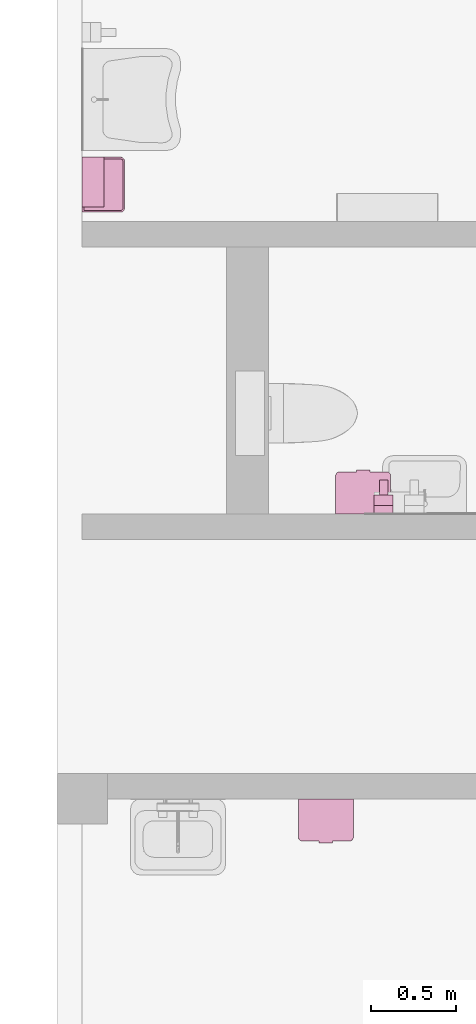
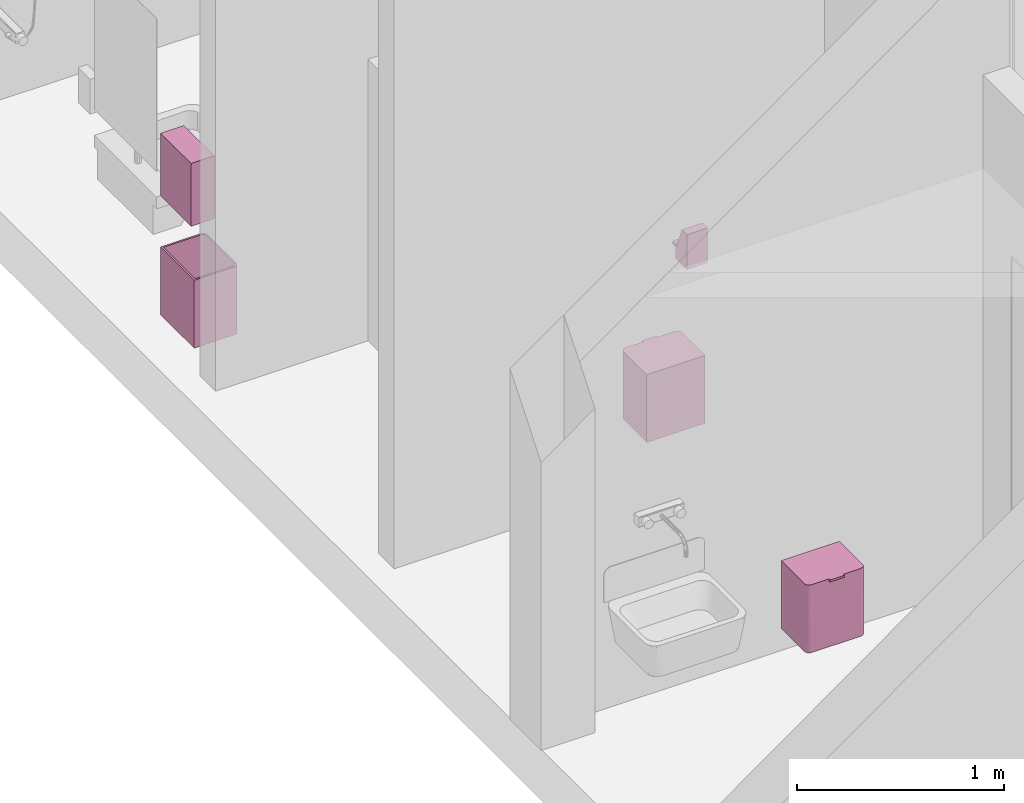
# One storey, part 53 of 58: 5 furnishings.
"""IFC2X3 building model written with IfcOpenShell, lengths in millimetres."""

from ifc_helpers import new_model, entity, si_unit, converted_unit, derived_unit, direction, frame, origin, origin_2d_with_axis, place, context, subcontext, project, spatial, polyline, rectangle, outline, extrude, faceted_brep, source, transform, mapped, material, type_object, type_shapes, element, save


model = new_model("IFC2X3")

# Units and contexts
model_context = context("Model", 3, precision=0.01, world=origin(), true_north=direction((0.7716245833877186, 0.6360782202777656)))
body_context = subcontext(model_context, "Body", "Model", "MODEL_VIEW")
ifc_project = project(units=[si_unit("LENGTHUNIT", "METRE", prefix="MILLI"), si_unit("AREAUNIT", "SQUARE_METRE"), converted_unit("PLANEANGLEUNIT", "DEGREE", entity("IfcPlaneAngleMeasure", 0.017453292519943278), si_unit("PLANEANGLEUNIT", "RADIAN"), dimensions=[0, 0, 0, 0, 0, 0, 0]), derived_unit("THERMALTRANSMITTANCEUNIT", [(si_unit("MASSUNIT", "GRAM", prefix="KILO"), 1), (si_unit("THERMODYNAMICTEMPERATUREUNIT", "KELVIN"), -1), (si_unit("TIMEUNIT", "SECOND"), -3)])], contexts=[model_context])

# Site, building, storey, space
site_placement = place(None, origin())
site = spatial("IfcSite", under=ifc_project, at=site_placement, Name="Default", CompositionType="ELEMENT")
building_placement = place(site_placement, origin())
building = spatial("IfcBuilding", under=site, at=building_placement, CompositionType="ELEMENT")
storey_placement = place(building_placement, frame((0.0, 0.0, 31140.0)))
storey = spatial("IfcBuildingStorey", under=building, at=storey_placement, Name="PLAN U1", CompositionType="ELEMENT", Elevation=31140.000000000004)
space_1_placement = place(storey_placement, origin())
space_1 = spatial("IfcSpace", under=storey, at=space_1_placement, Name="B5-302", CompositionType="ELEMENT", InteriorOrExteriorSpace="INTERNAL")

# Furnishing
ifc_material = material(Name="<Unnamed>")
furniture_type_1 = type_object("IfcFurnitureType", Name="Avfallsstativ, vegghengt lukket:Avfallsbøtte, vegghengt lukket", AssemblyPlace="NOTDEFINED", material=ifc_material)
shared_shape_1 = source(origin(), body_context, "Body", "Brep", [
    faceted_brep([(300.0, -250.0, -30610.0), (202.50000000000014, -250.0, -30610.0), (202.50000000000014, -250.0, -30622.469562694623), (300.0, -250.0, -30622.469562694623), (122.50000000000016, -250.0, -30610.0), (25.0, -250.0, -30610.0), (25.0, -250.0, -30622.469562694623), (122.50000000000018, -250.0, -30622.469562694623), (312.5000000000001, -246.65063509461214, -30610.0), (317.6776695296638, -242.67766952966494, -30610.0), (321.65063509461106, -237.50000000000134, -30610.0), (324.14814565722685, -231.47047612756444, -30610.0), (325.0, -225.0, -30610.0), (325.0, 0.0, -30610.0), (0.0, 0.0, -30610.0), (0.0, -225.0, -30610.0), (0.8518543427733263, -231.4704761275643, -30610.0), (3.3493649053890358, -237.50000000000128, -30610.0), (7.322330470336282, -242.67766952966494, -30610.0), (12.499999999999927, -246.65063509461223, -30610.0), (18.529523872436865, -249.14814565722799, -30610.0), (122.50000000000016, -260.0, -30610.0), (202.50000000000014, -260.0, -30610.0), (306.47047612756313, -249.14814565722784, -30610.0), (12.499999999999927, -246.65063509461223, -30622.469562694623), (7.322330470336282, -242.67766952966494, -30622.469562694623), (3.3493649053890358, -237.50000000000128, -30622.469562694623), (0.8518543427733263, -231.4704761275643, -30622.469562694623), (0.0, -225.0, -30622.469562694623), (0.0, 0.0, -30622.469562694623), (325.0, 0.0, -30622.469562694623), (325.0, -225.0, -30622.469562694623), (324.14814565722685, -231.47047612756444, -30622.469562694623), (321.65063509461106, -237.50000000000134, -30622.469562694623), (317.6776695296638, -242.67766952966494, -30622.469562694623), (312.5000000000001, -246.65063509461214, -30622.469562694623), (306.47047612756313, -249.14814565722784, -30622.469562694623), (202.5000000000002, -260.0, -30622.469562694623), (122.50000000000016, -260.0, -30622.469562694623), (18.529523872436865, -249.14814565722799, -30622.469562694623)], [[[0, 1, 2, 3]], [[4, 5, 6, 7]], [[8, 9, 10, 11, 12, 13, 14, 15, 16, 17, 18, 19, 20, 5, 4, 21, 22, 1, 0, 23]], [[24, 25, 26, 27, 28, 29, 30, 31, 32, 33, 34, 35, 36, 3, 2, 37, 38, 7, 6, 39]], [[14, 13, 30, 29]], [[15, 14, 29, 28]], [[16, 15, 28, 27]], [[17, 16, 27, 26]], [[18, 17, 26, 25]], [[19, 18, 25, 24]], [[20, 19, 24, 39]], [[5, 20, 39, 6]], [[23, 0, 3, 36]], [[8, 23, 36, 35]], [[9, 8, 35, 34]], [[10, 9, 34, 33]], [[11, 10, 33, 32]], [[12, 11, 32, 31]], [[13, 12, 31, 30]], [[21, 4, 7, 38]], [[22, 21, 38, 37]], [[1, 22, 37, 2]]]),
    faceted_brep([(325.0, 0.0, -30622.469562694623), (315.0, -10.0, -30622.469562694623), (325.0, -225.0, -30622.469562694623), (10.0, -10.0, -30622.469562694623), (0.0, 0.0, -30622.469562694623), (0.0, -225.0, -30622.469562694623), (10.0, -225.0, -30622.469562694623), (10.51111260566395, -228.88228567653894, -30622.469562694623), (0.8518543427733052, -231.4704761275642, -30622.469562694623), (12.009618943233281, -232.50000000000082, -30622.469562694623), (3.3493649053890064, -237.5000000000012, -30622.469562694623), (7.322330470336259, -242.6776695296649, -30622.469562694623), (14.393398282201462, -235.6066017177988, -30622.469562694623), (12.499999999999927, -246.65063509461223, -30622.469562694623), (17.49999999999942, -237.99038105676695, -30622.469562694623), (18.529523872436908, -249.148145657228, -30622.469562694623), (21.11771432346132, -239.48888739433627, -30622.469562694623), (25.0, -250.0, -30622.469562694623), (25.0, -240.0, -30622.469562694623), (300.0, -250.0, -30622.469562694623), (300.0, -240.0, -30622.469562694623), (303.882285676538, -239.48888739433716, -30622.469562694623), (306.4704761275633, -249.1481456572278, -30622.469562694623), (307.5000000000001, -237.99038105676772, -30622.469562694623), (312.5000000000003, -246.65063509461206, -30622.469562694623), (310.6066017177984, -235.60660171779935, -30622.469562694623), (317.67766952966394, -242.6776695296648, -30622.469562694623), (312.99038105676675, -232.50000000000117, -30622.469562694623), (321.6506350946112, -237.50000000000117, -30622.469562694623), (324.1481456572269, -231.4704761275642, -30622.469562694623), (314.4888873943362, -228.882285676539, -30622.469562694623), (315.0, -225.0, -30622.469562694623), (12.499999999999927, -246.65063509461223, -31010.0), (7.322330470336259, -242.6776695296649, -31010.0), (3.3493649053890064, -237.5000000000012, -31010.0), (0.8518543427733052, -231.4704761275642, -31010.0), (0.0, -225.0, -31010.0), (0.0, 0.0, -31010.0), (325.0, 0.0, -31010.0), (325.0, -225.0, -31010.0), (324.1481456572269, -231.4704761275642, -31010.0), (321.6506350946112, -237.50000000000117, -31010.0), (317.67766952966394, -242.6776695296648, -31010.0), (312.5000000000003, -246.65063509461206, -31010.0), (306.4704761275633, -249.1481456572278, -31010.0), (300.0, -250.0, -31010.0), (25.0, -250.0, -31010.0), (18.529523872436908, -249.148145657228, -31010.0), (0.0, -225.0, -30816.23478134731), (1.9030116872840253, -234.56708580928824, -30816.234781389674), (20.1227419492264, -249.5196320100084, -30765.24939916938), (15.43291419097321, -248.0969883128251, -30816.23478137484), (0.4803679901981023, -229.87725805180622, -30867.220163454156), (5.1661664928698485, -240.21903572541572, -30844.27154992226), (25.0, -250.0, -30816.23478134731), (9.780964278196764, -244.8338335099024, -30788.19801262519), (300.0, -250.0, -30816.23478134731), (309.5670858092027, -248.09698831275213, -30816.23478136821), (324.51963201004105, -229.87725805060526, -30765.249399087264), (323.09698831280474, -234.5670858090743, -30816.23478136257), (304.87725805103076, -249.51963200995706, -30867.220163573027), (315.219035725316, -244.833833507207, -30844.271550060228), (325.0, -225.0, -30816.23478134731), (319.83383350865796, -240.21903572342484, -30788.198012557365), (10.0, -10.0, -30997.53043730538), (315.0, -10.0, -30997.53043730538), (315.0, -225.0, -30997.53043730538), (315.0, -225.0, -30862.29730478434), (315.0, -225.0, -30757.70269521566), (313.8581929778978, -230.74025150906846, -30710.62416546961), (311.90030005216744, -234.13142150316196, -30809.999998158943), (312.1922170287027, -233.73783977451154, -30711.959482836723), (303.2078222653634, -239.65298182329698, -30769.81399780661), (300.0, -240.0, -30757.702687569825), (313.858193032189, -230.74025137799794, -30909.37583365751), (314.25697939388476, -229.66246056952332, -30809.99999840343), (314.7595251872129, -227.6751478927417, -30912.405626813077), (305.7402515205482, -238.85819297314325, -30824.218520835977), (309.13142139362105, -236.90030013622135, -30741.84328772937), (309.1314214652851, -236.9003000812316, -30883.165047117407), (303.01290960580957, -239.69429738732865, -30859.006726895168), (314.75952516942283, -227.67514799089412, -30707.594374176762), (312.99038105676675, -232.50000000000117, -30997.53043730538), (312.19221708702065, -233.73783969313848, -30908.040514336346), (314.4888873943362, -228.882285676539, -30997.53043730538), (305.74025145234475, -238.85819300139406, -30715.40947020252), (305.4416115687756, -238.97815665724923, -30917.083020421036), (300.0, -240.0, -30877.6165624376), (303.882285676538, -239.48888739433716, -30997.53043730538), (300.0, -240.0, -30997.53043730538), (310.6066017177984, -235.60660171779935, -30997.53043730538), (307.5000000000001, -237.99038105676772, -30997.53043730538), (25.0, -240.0, -30997.53043730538), (25.0, -240.0, -30862.297304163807), (25.0, -240.0, -30757.702695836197), (19.259748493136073, -238.85819297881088, -30710.624166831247), (10.0, -225.0, -30877.61670456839), (10.511112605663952, -228.88228567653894, -30997.53043730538), (10.0, -225.0, -30997.53043730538), (14.393398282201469, -235.6066017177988, -30997.53043730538), (13.099699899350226, -234.13142143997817, -30883.165048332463), (16.262160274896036, -237.1922170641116, -30908.0405160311), (22.32485202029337, -239.75952517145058, -30912.405624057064), (19.259748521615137, -238.85819299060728, -30909.375834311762), (20.33753950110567, -239.2569794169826, -30810.000000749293), (22.32485201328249, -239.75952517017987, -30707.594375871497), (21.11771432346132, -239.48888739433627, -30997.53043730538), (17.499999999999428, -237.99038105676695, -30997.53043730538), (16.262160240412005, -237.1922170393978, -30711.95948379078), (15.868578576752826, -236.90030011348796, -30810.00000012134), (13.09969988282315, -234.13142141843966, -30741.843289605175), (10.347018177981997, -228.20782227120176, -30769.813997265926), (11.141807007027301, -230.74025147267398, -30715.409470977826), (11.141807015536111, -230.74025149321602, -30824.218522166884), (10.30570260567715, -228.01290957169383, -30859.00672535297), (11.021843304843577, -230.44161147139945, -30917.08302024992), (12.009618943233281, -232.50000000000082, -30997.53043730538), (10.0, -225.0, -30757.70275223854)], [[[0, 1, 2]], [[1, 0, 3]], [[4, 3, 0]], [[3, 4, 5]], [[5, 6, 3]], [[7, 6, 5]], [[8, 7, 5]], [[7, 8, 9]], [[10, 9, 8]], [[11, 9, 10]], [[11, 12, 9]], [[11, 13, 12]], [[13, 14, 12]], [[14, 13, 15]], [[16, 14, 15]], [[15, 17, 16]], [[18, 16, 17]], [[18, 17, 19]], [[20, 18, 19]], [[21, 20, 19]], [[19, 22, 21]], [[21, 22, 23]], [[23, 22, 24]], [[25, 23, 24]], [[26, 25, 24]], [[26, 27, 25]], [[27, 26, 28]], [[29, 27, 28]], [[30, 29, 2]], [[30, 27, 29]], [[2, 1, 31]], [[31, 30, 2]], [[32, 33, 34, 35, 36, 37, 38, 39, 40, 41, 42, 43, 44, 45, 46, 47]], [[4, 0, 38, 37]], [[4, 37, 36, 48, 5]], [[49, 35, 34]], [[47, 50, 51]], [[36, 52, 48]], [[53, 49, 34]], [[34, 33, 53]], [[52, 35, 49]], [[50, 17, 15]], [[48, 8, 5]], [[10, 8, 49]], [[35, 52, 36]], [[10, 49, 53]], [[17, 50, 54]], [[51, 32, 47]], [[55, 53, 33]], [[11, 53, 55]], [[47, 46, 54]], [[33, 32, 55]], [[55, 51, 13]], [[48, 52, 8]], [[51, 15, 13]], [[51, 50, 15]], [[10, 53, 11]], [[54, 50, 47]], [[32, 51, 55]], [[8, 52, 49]], [[55, 13, 11]], [[17, 54, 46, 45, 56, 19]], [[57, 44, 43]], [[40, 58, 59]], [[45, 60, 56]], [[61, 57, 43]], [[43, 42, 61]], [[60, 44, 57]], [[58, 2, 29]], [[56, 22, 19]], [[24, 22, 57]], [[44, 60, 45]], [[24, 57, 61]], [[2, 58, 62]], [[59, 41, 40]], [[63, 61, 42]], [[26, 61, 63]], [[40, 39, 62]], [[42, 41, 63]], [[63, 59, 28]], [[56, 60, 22]], [[59, 29, 28]], [[59, 58, 29]], [[24, 61, 26]], [[62, 58, 40]], [[41, 59, 63]], [[22, 60, 57]], [[63, 28, 26]], [[0, 2, 62, 39, 38]], [[1, 3, 64, 65]], [[1, 65, 66, 67, 68, 31]], [[69, 70, 71]], [[72, 73, 20]], [[74, 75, 76]], [[68, 67, 75]], [[77, 78, 79]], [[73, 72, 80]], [[76, 67, 66]], [[30, 81, 69]], [[69, 27, 30]], [[82, 83, 74]], [[82, 74, 84]], [[23, 78, 85]], [[72, 85, 77]], [[69, 75, 70]], [[70, 74, 83]], [[80, 77, 86]], [[78, 23, 25]], [[71, 70, 78]], [[81, 30, 31]], [[86, 77, 79]], [[80, 72, 77]], [[23, 85, 21]], [[87, 88, 89]], [[79, 90, 91]], [[70, 79, 78]], [[90, 79, 83]], [[72, 20, 21]], [[77, 85, 78]], [[71, 27, 69]], [[68, 75, 81]], [[71, 25, 27]], [[25, 71, 78]], [[84, 74, 76]], [[75, 74, 70]], [[70, 83, 79]], [[83, 82, 90]], [[69, 81, 75]], [[68, 81, 31]], [[84, 76, 66]], [[67, 76, 75]], [[85, 72, 21]], [[87, 73, 80]], [[80, 88, 87]], [[88, 80, 86]], [[86, 91, 88]], [[91, 86, 79]], [[18, 20, 73, 87, 89, 92, 93, 94]], [[95, 14, 16]], [[96, 97, 98]], [[99, 100, 101]], [[102, 103, 104]], [[16, 18, 105]], [[93, 104, 94]], [[103, 106, 107]], [[101, 103, 107]], [[102, 93, 92]], [[94, 105, 18]], [[108, 95, 109]], [[12, 110, 9]], [[109, 100, 110]], [[111, 112, 113]], [[109, 103, 101]], [[16, 105, 95]], [[114, 113, 115]], [[100, 115, 113]], [[100, 99, 116]], [[109, 110, 108]], [[111, 117, 6]], [[114, 111, 113]], [[117, 111, 114]], [[104, 109, 95]], [[9, 110, 112]], [[113, 110, 100]], [[9, 112, 7]], [[111, 6, 7]], [[113, 112, 110]], [[108, 14, 95]], [[94, 104, 105]], [[108, 12, 14]], [[12, 108, 110]], [[106, 103, 102]], [[104, 103, 109]], [[109, 101, 100]], [[101, 107, 99]], [[95, 105, 104]], [[106, 102, 92]], [[93, 102, 104]], [[112, 111, 7]], [[96, 117, 114]], [[114, 97, 96]], [[97, 114, 115]], [[115, 116, 97]], [[116, 115, 100]], [[3, 6, 117, 96, 98, 64]], [[82, 84, 66, 65, 64, 98, 97, 116, 99, 107, 106, 92, 89, 88, 91, 90]]]),
])
type_shapes(furniture_type_1, [shared_shape_1])
furnishing_1_placement = place(space_1_placement, frame((259992.92444647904, 59315.25555007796, 31140.0)))
element("IfcFurnishingElement", 1, at=furnishing_1_placement, inside=space_1, type_object=furniture_type_1, material=ifc_material, Name="Avfallsstativ, vegghengt lukket:Avfallsbøtte, vegghengt lukket", ObjectType="Avfallsstativ, vegghengt lukket:Avfallsbøtte, vegghengt lukket", context=body_context, shape_type="MappedRepresentation", body=[
    mapped(shared_shape_1, transform((0.0, 0.0, 0.0), scale=1.0)),
])

# Space
space_2_placement = place(storey_placement, origin())
space_2 = spatial("IfcSpace", under=storey, at=space_2_placement, Name="B5-303", CompositionType="ELEMENT", InteriorOrExteriorSpace="INTERNAL")

# Furnishings
furnishing_2_placement = place(space_2_placement, frame((260537.9244464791, 60994.50163955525, 31140.0), z_axis=(0.0, 0.0, 1.0), x_axis=(-1.0, 0.0, 0.0)))
element("IfcFurnishingElement", 2, at=furnishing_2_placement, inside=space_2, type_object=furniture_type_1, material=ifc_material, Name="Avfallsstativ, vegghengt lukket:Avfallsbøtte, vegghengt lukket", ObjectType="Avfallsstativ, vegghengt lukket:Avfallsbøtte, vegghengt lukket", context=body_context, shape_type="MappedRepresentation", body=[
    mapped(shared_shape_1, transform((0.0, 0.0, 0.0), scale=1.0)),
])
furniture_type_2 = type_object("IfcFurnitureType", Name="Servantdispenser:Servantdispenser", AssemblyPlace="NOTDEFINED", material=ifc_material)
shared_shape_2 = source(origin(), body_context, "Body", "SweptSolid", [
    extrude(outline(polyline([(-56.0, -92.0), (54.0, -92.0), (54.0, 113.0), (4.0, 113.0), (-56.0, -42.0), (-56.0, -92.0)])), frame((-57.499999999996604, -51.0, 92.0), z_axis=(1.0, 0.0, 0.0), x_axis=(0.0, 1.0, 0.0)), (0.0, 0.0, 1.0), 114.99999999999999),
    extrude(rectangle(XDim=90.00000000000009, YDim=50.00000000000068, at=origin_2d_with_axis()), frame((-2.1527777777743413, -152.0, 20.0), z_axis=(0.0, 0.0, 1.0), x_axis=(0.0, 1.0, 0.0)), (0.0, 0.0, 1.0), 14.999999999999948),
])
type_shapes(furniture_type_2, [shared_shape_2])
furnishing_3_placement = place(space_2_placement, frame((260495.4244464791, 60999.50163955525, 1070.0), z_axis=(0.0, 0.0, 1.0), x_axis=(-1.0, 0.0, 0.0)))
element("IfcFurnishingElement", 3, at=furnishing_3_placement, inside=space_2, type_object=furniture_type_2, material=ifc_material, Name="Servantdispenser:Servantdispenser", ObjectType="Servantdispenser:Servantdispenser", context=body_context, shape_type="MappedRepresentation", body=[
    mapped(shared_shape_2, transform((0.0, 0.0, 0.0), scale=1.0)),
])

# Space
space_3_placement = place(storey_placement, origin())
space_3 = spatial("IfcSpace", under=storey, at=space_3_placement, Name="B5-304", CompositionType="ELEMENT", InteriorOrExteriorSpace="INTERNAL")

# Furnishings
furniture_type_3 = type_object("IfcFurnitureType", Name="Avfallsstativ, vegghengt:Avfallsstativ, vegghengt", AssemblyPlace="NOTDEFINED", material=ifc_material)
shared_shape_3 = source(origin(), body_context, "Body", "Brep", [
    faceted_brep([(325.0, 0.0, -32570.0), (315.0, -10.0, -32570.0), (325.0, -225.0, -32570.0), (10.0, -10.0, -32570.0), (0.0, 0.0, -32570.0), (0.0, -225.0, -32570.0), (10.0, -225.0, -32570.0), (10.51111260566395, -228.88228567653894, -32570.0), (0.8518543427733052, -231.4704761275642, -32570.0), (12.009618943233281, -232.50000000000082, -32570.0), (3.3493649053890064, -237.5000000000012, -32570.0), (7.322330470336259, -242.6776695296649, -32570.0), (14.393398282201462, -235.6066017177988, -32570.0), (12.499999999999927, -246.65063509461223, -32570.0), (17.49999999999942, -237.99038105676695, -32570.0), (18.529523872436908, -249.148145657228, -32570.0), (21.11771432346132, -239.48888739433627, -32570.0), (25.0, -250.0, -32570.0), (25.0, -240.0, -32570.0), (300.0, -250.0, -32570.0), (300.0, -240.0, -32570.0), (303.882285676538, -239.48888739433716, -32570.0), (306.4704761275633, -249.1481456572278, -32570.0), (307.5000000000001, -237.99038105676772, -32570.0), (312.5000000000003, -246.65063509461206, -32570.0), (310.6066017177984, -235.60660171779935, -32570.0), (317.67766952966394, -242.6776695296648, -32570.0), (312.99038105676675, -232.50000000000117, -32570.0), (321.6506350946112, -237.50000000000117, -32570.0), (324.1481456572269, -231.4704761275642, -32570.0), (314.4888873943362, -228.882285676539, -32570.0), (315.0, -225.0, -32570.0), (12.499999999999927, -246.65063509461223, -32970.0), (7.322330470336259, -242.6776695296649, -32970.0), (3.3493649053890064, -237.5000000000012, -32970.0), (0.8518543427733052, -231.4704761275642, -32970.0), (0.0, -225.0, -32970.0), (0.0, 0.0, -32970.0), (325.0, 0.0, -32970.0), (325.0, -225.0, -32970.0), (324.1481456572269, -231.4704761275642, -32970.0), (321.6506350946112, -237.50000000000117, -32970.0), (317.67766952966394, -242.6776695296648, -32970.0), (312.5000000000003, -246.65063509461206, -32970.0), (306.4704761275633, -249.1481456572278, -32970.0), (300.0, -250.0, -32970.0), (25.0, -250.0, -32970.0), (18.529523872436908, -249.148145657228, -32970.0), (0.0, -225.0, -32769.99952971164), (1.9030116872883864, -234.56708580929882, -32770.00000004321), (0.3107286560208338, -228.92936133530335, -32688.295615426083), (0.48036799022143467, -229.87725805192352, -32825.53356866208), (5.166166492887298, -240.21903572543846, -32803.30035307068), (20.122741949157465, -249.5196320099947, -32714.466431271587), (15.432914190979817, -248.09698831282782, -32770.00000002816), (9.7809642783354, -244.83383351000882, -32736.69964678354), (25.0, -250.0, -32770.0), (21.07063866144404, -249.68927134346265, -32851.70438444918), (300.0, -250.0, -32770.0), (309.5670858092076, -248.09698831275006, -32770.000000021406), (303.92936134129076, -249.68927134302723, -32688.295615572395), (304.8772580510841, -249.51963200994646, -32825.53356877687), (315.2190357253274, -244.8338335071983, -32803.300353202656), (324.51963201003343, -229.87725805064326, -32714.466431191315), (323.0969883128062, -234.56708580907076, -32770.00000001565), (319.83383350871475, -240.2190357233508, -32736.69964672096), (325.0, -225.0, -32770.0), (324.68927134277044, -228.9293613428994, -32851.70438436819), (10.0, -10.0, -32957.53043730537), (315.0, -10.0, -32957.53043730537), (315.0, -225.0, -32957.53043730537), (315.0, -225.0, -32822.297304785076), (315.0, -225.0, -32687.06417226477), (311.9003000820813, -234.13142146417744, -32658.62110743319), (302.674820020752, -239.75958460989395, -32655.116775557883), (300.0, -240.0, -32705.23314156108), (314.71797949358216, -227.89500943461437, -32840.60187083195), (313.8581929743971, -230.74025151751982, -32691.66711050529), (314.7236459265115, -227.8660514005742, -32754.680737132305), (314.70763647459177, -227.9471052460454, -32666.878498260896), (302.82341022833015, -239.7318822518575, -32874.57133924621), (303.882285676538, -239.48888739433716, -32957.53043730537), (300.0, -240.0, -32957.53043730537), (313.8581930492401, -230.74025133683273, -32835.86331939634), (310.6066017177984, -235.60660171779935, -32957.53043730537), (311.90030013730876, -234.13142139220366, -32868.90932762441), (312.99038105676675, -232.50000000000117, -32957.53043730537), (314.4888873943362, -228.882285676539, -32957.53043730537), (311.90030005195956, -234.13142150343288, -32763.76521677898), (302.77635597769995, -239.74082248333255, -32744.69200808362), (305.7402514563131, -238.85819299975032, -32652.523601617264), (305.7402514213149, -238.858193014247, -32752.582223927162), (309.1314214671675, -236.90030007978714, -32835.863327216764), (305.7402515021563, -238.85819298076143, -32862.86704289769), (307.5000000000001, -237.99038105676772, -32957.53043730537), (309.13142139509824, -236.90030013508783, -32687.593642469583), (300.0, -240.0, -32840.466246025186), (25.0, -240.0, -32957.53043730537), (25.0, -240.0, -32822.29731638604), (25.0, -240.0, -32687.06416672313), (19.25974848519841, -238.85819297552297, -32691.667111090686), (15.86857854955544, -236.9003000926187, -32658.621108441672), (19.2597485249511, -238.85819299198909, -32835.86332494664), (15.868578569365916, -236.90030010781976, -32868.90932897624), (15.868578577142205, -236.90030011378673, -32763.765218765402), (22.104990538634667, -239.71797948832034, -32840.60187807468), (22.133948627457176, -239.723645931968, -32754.68073770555), (22.052894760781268, -239.70763647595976, -32666.878496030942), (17.499999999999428, -237.99038105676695, -32957.53043730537), (21.11771432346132, -239.48888739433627, -32957.53043730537), (14.393398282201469, -235.6066017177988, -32957.53043730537), (11.141807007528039, -230.74025147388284, -32652.52360211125), (13.099699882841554, -234.13142141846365, -32687.593643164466), (11.141807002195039, -230.74025146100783, -32752.582224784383), (13.099699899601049, -234.13142144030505, -32835.86332521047), (10.259177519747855, -227.77635599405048, -32744.69200907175), (10.240415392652, -227.6748200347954, -32655.11677584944), (11.141807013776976, -230.7402514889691, -32862.86704338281), (12.009618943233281, -232.50000000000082, -32957.53043730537), (10.511112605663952, -228.88228567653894, -32957.53043730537), (10.268117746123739, -227.8234102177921, -32874.571339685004), (10.0, -225.0, -32705.23307829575), (10.0, -225.0, -32957.53043730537), (10.0, -225.0, -32840.466373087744)], [[[0, 1, 2]], [[1, 0, 3]], [[4, 3, 0]], [[3, 4, 5]], [[5, 6, 3]], [[7, 6, 5]], [[8, 7, 5]], [[7, 8, 9]], [[10, 9, 8]], [[11, 9, 10]], [[11, 12, 9]], [[11, 13, 12]], [[13, 14, 12]], [[14, 13, 15]], [[16, 14, 15]], [[15, 17, 16]], [[18, 16, 17]], [[18, 17, 19]], [[20, 18, 19]], [[21, 20, 19]], [[19, 22, 21]], [[21, 22, 23]], [[23, 22, 24]], [[25, 23, 24]], [[26, 25, 24]], [[26, 27, 25]], [[27, 26, 28]], [[29, 27, 28]], [[30, 29, 2]], [[30, 27, 29]], [[2, 1, 31]], [[31, 30, 2]], [[32, 33, 34, 35, 36, 37, 38, 39, 40, 41, 42, 43, 44, 45, 46, 47]], [[4, 0, 38, 37]], [[4, 37, 36, 48, 5]], [[49, 35, 34]], [[49, 50, 51]], [[36, 51, 48]], [[52, 49, 34]], [[34, 33, 52]], [[51, 35, 49]], [[53, 17, 15]], [[50, 5, 48]], [[10, 8, 49]], [[35, 51, 36]], [[10, 49, 52]], [[5, 50, 8]], [[54, 32, 47]], [[55, 52, 33]], [[11, 52, 55]], [[46, 56, 57]], [[33, 32, 55]], [[55, 54, 13]], [[48, 51, 50]], [[54, 15, 13]], [[54, 53, 15]], [[10, 52, 11]], [[56, 53, 57]], [[32, 54, 55]], [[50, 49, 8]], [[55, 13, 11]], [[57, 54, 47]], [[17, 53, 56]], [[54, 57, 53]], [[46, 57, 47]], [[17, 56, 46, 45, 58, 19]], [[59, 44, 43]], [[59, 60, 61]], [[45, 61, 58]], [[62, 59, 43]], [[43, 42, 62]], [[61, 44, 59]], [[63, 2, 29]], [[60, 19, 58]], [[24, 22, 59]], [[44, 61, 45]], [[24, 59, 62]], [[19, 60, 22]], [[64, 41, 40]], [[65, 62, 42]], [[26, 62, 65]], [[39, 66, 67]], [[42, 41, 65]], [[65, 64, 28]], [[58, 61, 60]], [[64, 29, 28]], [[64, 63, 29]], [[24, 62, 26]], [[66, 63, 67]], [[41, 64, 65]], [[60, 59, 22]], [[65, 28, 26]], [[67, 64, 40]], [[2, 63, 66]], [[64, 67, 63]], [[39, 67, 40]], [[0, 2, 66, 39, 38]], [[1, 3, 68, 69]], [[1, 69, 70, 71, 72, 31]], [[73, 25, 27]], [[74, 75, 20]], [[76, 71, 70]], [[73, 27, 77]], [[78, 77, 79]], [[80, 81, 82]], [[83, 78, 76]], [[71, 78, 72]], [[30, 31, 79]], [[84, 85, 86]], [[87, 86, 83]], [[88, 83, 85]], [[89, 74, 90]], [[27, 30, 77]], [[91, 92, 93]], [[93, 94, 81]], [[23, 95, 90]], [[25, 95, 23]], [[88, 92, 95, 73]], [[92, 85, 84]], [[21, 23, 90]], [[84, 94, 92]], [[83, 88, 77]], [[81, 80, 93]], [[91, 90, 95, 92]], [[71, 76, 78]], [[91, 93, 89, 90]], [[94, 93, 92]], [[25, 73, 95]], [[88, 73, 77]], [[86, 85, 83]], [[88, 85, 92]], [[21, 90, 74]], [[21, 74, 20]], [[89, 75, 74]], [[89, 96, 75]], [[80, 96, 89]], [[93, 80, 89]], [[96, 80, 82]], [[72, 78, 79]], [[77, 78, 83]], [[72, 79, 31]], [[79, 77, 30]], [[76, 87, 83]], [[87, 76, 70]], [[20, 75, 96, 82, 97, 98, 99, 18]], [[14, 100, 101]], [[102, 103, 104, 100]], [[98, 105, 106]], [[105, 98, 97]], [[18, 107, 16]], [[108, 102, 109]], [[103, 108, 110]], [[99, 98, 106]], [[14, 101, 12]], [[111, 9, 112]], [[113, 111, 112, 114]], [[115, 116, 111]], [[106, 100, 107]], [[100, 14, 16]], [[117, 118, 119]], [[110, 114, 103]], [[119, 120, 117]], [[112, 9, 12]], [[116, 121, 6]], [[7, 9, 111]], [[120, 119, 122]], [[102, 106, 105]], [[104, 103, 114, 112]], [[113, 114, 117]], [[110, 118, 114]], [[113, 117, 115, 111]], [[104, 112, 101]], [[118, 117, 114]], [[108, 103, 102]], [[12, 101, 112]], [[104, 101, 100]], [[7, 111, 116]], [[7, 116, 6]], [[115, 121, 116]], [[115, 123, 121]], [[120, 123, 115]], [[117, 120, 115]], [[123, 120, 122]], [[99, 106, 107]], [[100, 106, 102]], [[99, 107, 18]], [[107, 100, 16]], [[105, 109, 102]], [[109, 105, 97]], [[3, 6, 121, 123, 122, 68]], [[86, 87, 70, 69, 68, 122, 119, 118, 110, 108, 109, 97, 82, 81, 94, 84]]]),
])
type_shapes(furniture_type_3, [shared_shape_3])
furnishing_4_placement = place(space_3_placement, frame((258717.92444647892, 62775.72307172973, 33100.0), z_axis=(0.0, 0.0, 1.0), x_axis=(0.0, 1.0, 0.0)))
element("IfcFurnishingElement", 4, at=furnishing_4_placement, inside=space_3, type_object=furniture_type_3, material=ifc_material, Name="Avfallsstativ, vegghengt:Avfallsstativ, vegghengt", ObjectType="Avfallsstativ, vegghengt:Avfallsstativ, vegghengt", context=body_context, shape_type="MappedRepresentation", body=[
    mapped(shared_shape_3, transform((0.0, 0.0, 0.0), scale=1.0)),
])
furniture_type_4 = type_object("IfcFurnitureType", Name="Dispenser, papir:Dispenser, papir", AssemblyPlace="NOTDEFINED", material=ifc_material)
shared_shape_4 = source(origin(), body_context, "Body", "Brep", [
    faceted_brep([(147.4999999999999, 0.0, -32870.0), (-147.4999999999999, 0.0, -32870.0), (-147.4999999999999, -130.0, -32870.0), (147.4999999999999, -130.0, -32870.0), (147.4999999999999, 0.0, -33240.0), (147.4999999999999, -130.0, -33240.0), (-147.4999999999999, -130.0, -33240.0), (-147.4999999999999, 0.0, -33240.0), (-127.4999999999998, -130.0, -33180.0), (127.4999999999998, -130.0, -33180.0), (127.4999999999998, -130.0, -33220.0), (-127.4999999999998, -130.0, -33220.0), (127.4999999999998, -10.0, -33180.0), (-127.4999999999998, -10.0, -33180.0), (-127.4999999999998, -10.0, -33220.0), (127.4999999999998, -10.0, -33220.0)], [[[0, 1, 2, 3]], [[4, 5, 6, 7]], [[1, 0, 4, 7]], [[2, 1, 7, 6]], [[3, 2, 6, 5], [8, 9, 10, 11]], [[0, 3, 5, 4]], [[12, 13, 14, 15]], [[13, 12, 9, 8]], [[14, 13, 8, 11]], [[15, 14, 11, 10]], [[12, 15, 10, 9]]]),
])
type_shapes(furniture_type_4, [shared_shape_4])
furnishing_5_placement = place(space_3_placement, frame((258717.92444647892, 62953.22307172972, 34070.0), z_axis=(0.0, 0.0, 1.0), x_axis=(0.0, 1.0, 0.0)))
element("IfcFurnishingElement", 5, at=furnishing_5_placement, inside=space_3, type_object=furniture_type_4, material=ifc_material, Name="Dispenser, papir:Dispenser, papir", ObjectType="Dispenser, papir:Dispenser, papir", context=body_context, shape_type="MappedRepresentation", body=[
    mapped(shared_shape_4, transform((0.0, 0.0, 0.0), scale=1.0)),
])

save(model, "model.ifc")
